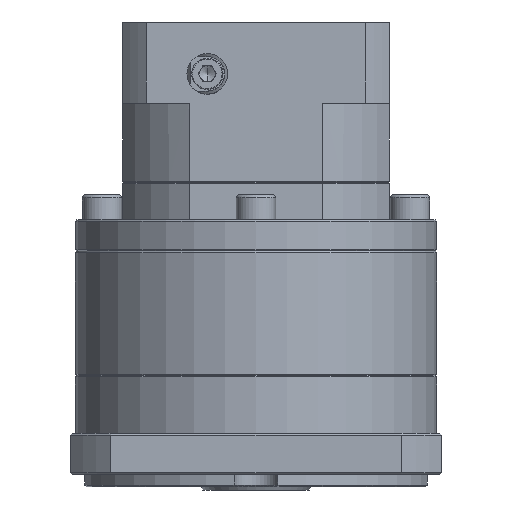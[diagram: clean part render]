
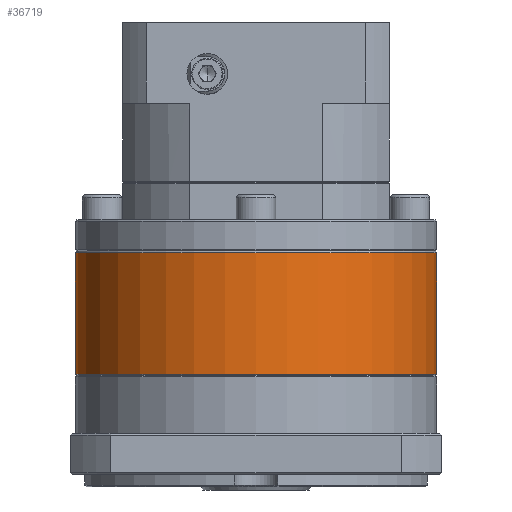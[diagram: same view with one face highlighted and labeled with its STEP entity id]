
A CAD part, front view. The second image highlights one B-rep face of the part: STEP entity #36719.
In plain terms, the highlighted cylindrical face has radius 57.5 mm (diameter 115 mm), a partial arc.
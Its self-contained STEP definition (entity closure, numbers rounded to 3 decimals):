
#2630 = CARTESIAN_POINT ( 'NONE',  ( 118.429, 23.828, -95.201 ) ) ;
#4886 = VERTEX_POINT ( 'NONE', #112093 ) ;
#7986 = CARTESIAN_POINT ( 'NONE',  ( 118.429, 23.828, -133.912 ) ) ;
#16128 = FACE_OUTER_BOUND ( 'NONE', #63335, .T. ) ;
#16284 = CYLINDRICAL_SURFACE ( 'NONE', #122141, 57.5 ) ;
#30544 = EDGE_CURVE ( 'NONE', #4886, #38789, #117954, .T. ) ;
#32562 = EDGE_CURVE ( 'NONE', #38789, #121139, #105110, .T. ) ;
#33592 = ORIENTED_EDGE ( 'NONE', *, *, #78812, .T. ) ;
#36719 = ADVANCED_FACE ( 'NONE', ( #16128 ), #16284, .T. ) ;
#38789 = VERTEX_POINT ( 'NONE', #83896 ) ;
#40220 = ORIENTED_EDGE ( 'NONE', *, *, #30544, .T. ) ;
#40650 = LINE ( 'NONE', #92771, #111231 ) ;
#50050 = AXIS2_PLACEMENT_3D ( 'NONE', #114980, #106130, #115388 ) ;
#50379 = VECTOR ( 'NONE', #71986, 1000. ) ;
#62619 = DIRECTION ( 'NONE',  ( 0., 0., -1. ) ) ;
#63335 = EDGE_LOOP ( 'NONE', ( #107489, #33592, #40220, #99621 ) ) ;
#69468 = DIRECTION ( 'NONE',  ( 0., 0., 1. ) ) ;
#71114 = VERTEX_POINT ( 'NONE', #2630 ) ;
#71986 = DIRECTION ( 'NONE',  ( 0., 0., -1. ) ) ;
#78812 = EDGE_CURVE ( 'NONE', #71114, #4886, #97653, .T. ) ;
#80365 = DIRECTION ( 'NONE',  ( -1., 0., 0. ) ) ;
#83896 = CARTESIAN_POINT ( 'NONE',  ( 3.429, 23.828, -133.912 ) ) ;
#89974 = CARTESIAN_POINT ( 'NONE',  ( 3.429, 23.828, -94.701 ) ) ;
#90315 = DIRECTION ( 'NONE',  ( -1., 0., 0. ) ) ;
#91145 = DIRECTION ( 'NONE',  ( 0., 0., -1. ) ) ;
#92771 = CARTESIAN_POINT ( 'NONE',  ( 118.429, 23.828, -94.701 ) ) ;
#97653 = CIRCLE ( 'NONE', #50050, 57.5 ) ;
#99621 = ORIENTED_EDGE ( 'NONE', *, *, #32562, .T. ) ;
#105110 = CIRCLE ( 'NONE', #123962, 57.5 ) ;
#106130 = DIRECTION ( 'NONE',  ( 0., 0., -1. ) ) ;
#107489 = ORIENTED_EDGE ( 'NONE', *, *, #118346, .F. ) ;
#108092 = CARTESIAN_POINT ( 'NONE',  ( 60.929, 23.828, -133.912 ) ) ;
#111231 = VECTOR ( 'NONE', #62619, 1000. ) ;
#112093 = CARTESIAN_POINT ( 'NONE',  ( 3.429, 23.828, -95.201 ) ) ;
#114980 = CARTESIAN_POINT ( 'NONE',  ( 60.929, 23.828, -95.201 ) ) ;
#115388 = DIRECTION ( 'NONE',  ( -1., 0., 0. ) ) ;
#117954 = LINE ( 'NONE', #89974, #50379 ) ;
#118346 = EDGE_CURVE ( 'NONE', #71114, #121139, #40650, .T. ) ;
#120118 = CARTESIAN_POINT ( 'NONE',  ( 60.929, 23.828, -94.701 ) ) ;
#121139 = VERTEX_POINT ( 'NONE', #7986 ) ;
#122141 = AXIS2_PLACEMENT_3D ( 'NONE', #120118, #91145, #90315 ) ;
#123962 = AXIS2_PLACEMENT_3D ( 'NONE', #108092, #69468, #80365 ) ;
